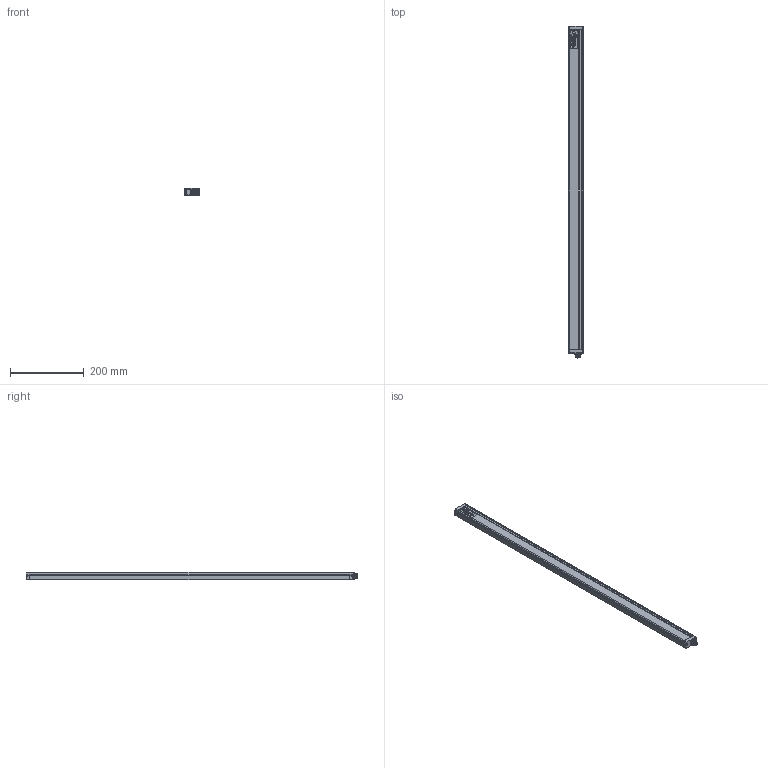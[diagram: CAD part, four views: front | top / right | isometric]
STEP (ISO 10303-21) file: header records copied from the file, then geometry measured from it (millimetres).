
FILE_DESCRIPTION(/* description */ (''),/* implementation_level */ '2;1');
FILE_NAME(/* name */ 'C:\Users\andre\SynologyDrive\Optoscan\Libreria Componenti\00 - Barriere\Polaris sorgente\Barriera Polaris RX\Polaris_860_RX.stp',/* time_stamp */ '2021-06-04T11:50:04+02:00',/* author */ ('andre'),/* organization */ (''),/* preprocessor_version */ 'ST-DEVELOPER v18',/* originating_system */ 'Autodesk Inventor 2020',/* authorisation */ '');
FILE_SCHEMA (('AUTOMOTIVE_DESIGN { 1 0 10303 214 3 1 1 }'));
Length unit declared in the file: millimetre
Products named in the file (1): Polaris_860_RX
Bounding box: 40.5 x 897.3 x 20.75 mm (x, y, z)
Volume: 179603.3 mm3; surface area: 234760.9 mm2
Topology: 1 solids, 1 shells, 700 faces, 1926 edges, 1237 vertices
Faces by surface type: plane 319, cylinder 199, bspline 94, torus 70, sphere 10, cone 8
Full cylindrical faces by diameter (mm): 1 x8, 2.459 x4, 2.5 x4, 3 x4, 3.5 x4, 5.5 x4, 8 x1, 10.5 x2, 11.75 x9, 15.7 x1, 17.5 x1
Entity records: 28472 total; most frequent: CARTESIAN_POINT 10246, ORIENTED_EDGE 3826, DIRECTION 3447, EDGE_CURVE 1913, VERTEX_POINT 1237, AXIS2_PLACEMENT_3D 1211, LINE 1025, VECTOR 1025
